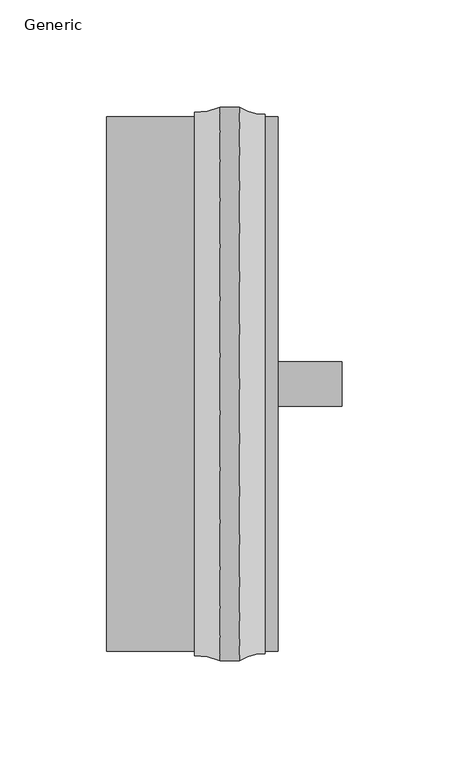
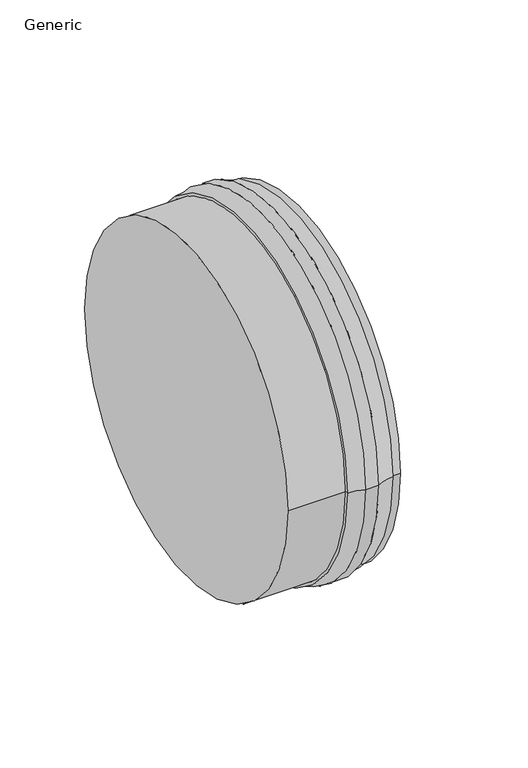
"""IFC4 building model written with IfcOpenShell, lengths in millimetres: pipe fitting geometry, CADS_Jeremias_TeeCapWithDrain_Socket : Generic."""

from ifc_helpers import new_model, si_unit, point, frame, origin, origin_2d, place, context, project, spatial, polyline, circle_curve, ellipse_curve, trimmed, segment, composite_curve, outline, extrude, source, transform, mapped, element, save
from ifc_brep_helpers import plane_surface, cylinder_surface, revolved_surface, advanced_brep


def generic_b223704b(model_context):
    return source(origin(), model_context, "Body", "SolidModel", [
        advanced_brep(
        [(41.0, 125.0, 0.0), (41.0, 126.9765092, 0.0), (41.0, -126.9765092, 0.0), (41.0, -125.0, 0.0), (74.0, 125.0, 0.0), (74.0, -125.0, 0.0), (74.0, 125.9881891, 0.0), (74.0, -125.9881891, 0.0), (62.0, 129.4883201, 0.0), (62.0, -129.4883201, 0.0), (53.0, 129.4883201, 0.0), (53.0, -129.4883201, 0.0)],
        [
            (0, 1),
            (1, 2, circle_curve(frame((41.0, 0.0, 0.0), z_axis=(-1.0, 0.0, 0.0), x_axis=(0.0, -1.0, 0.0)), 126.9765092)),
            (2, 3),
            (3, 0, circle_curve(frame((41.0, 0.0, 0.0), z_axis=(1.0, 0.0, 0.0), x_axis=(0.0, -1.0, 0.0)), 125.0)),
            (2, 1, circle_curve(frame((41.0, 0.0, 0.0), z_axis=(-1.0, 0.0, 0.0), x_axis=(0.0, -1.0, 0.0)), 126.9765092)),
            (0, 3, circle_curve(frame((41.0, 0.0, 0.0), z_axis=(1.0, 0.0, 0.0), x_axis=(0.0, -1.0, 0.0)), 125.0)),
            (4, 0),
            (3, 5),
            (5, 4, circle_curve(frame((74.0, 0.0, 0.0), z_axis=(1.0, 0.0, 0.0), x_axis=(0.0, -1.0, 0.0)), 125.0)),
            (4, 5, circle_curve(frame((74.0, 0.0, 0.0), z_axis=(1.0, 0.0, 0.0), x_axis=(0.0, -1.0, 0.0)), 125.0)),
            (6, 4),
            (5, 7),
            (7, 6, circle_curve(frame((74.0, 0.0, 0.0), z_axis=(1.0, 0.0, 0.0), x_axis=(0.0, -1.0, 0.0)), 125.9881891)),
            (6, 7, circle_curve(frame((74.0, 0.0, 0.0), z_axis=(1.0, 0.0, 0.0), x_axis=(0.0, -1.0, 0.0)), 125.9881891)),
            (8, 6, circle_curve(frame((74.0, 148.3089134, 0.0), z_axis=(0.0, 0.0, 1.0), x_axis=(1.0, 0.0, 0.0)), 22.3207242)),
            (7, 9, circle_curve(frame((74.0, -148.3089134, 0.0), z_axis=(0.0, 0.0, 1.0), x_axis=(1.0, 0.0, 0.0)), 22.3207242)),
            (9, 8, circle_curve(frame((62.0, 0.0, 0.0), z_axis=(1.0, 0.0, 0.0), x_axis=(0.0, -1.0, 0.0)), 129.4883201)),
            (8, 9, circle_curve(frame((62.0, 0.0, 0.0), z_axis=(1.0, 0.0, 0.0), x_axis=(0.0, -1.0, 0.0)), 129.4883201)),
            (10, 8),
            (9, 11),
            (11, 10, circle_curve(frame((53.0, 0.0, 0.0), z_axis=(1.0, 0.0, 0.0), x_axis=(0.0, -1.0, 0.0)), 129.4883201)),
            (10, 11, circle_curve(frame((53.0, 0.0, 0.0), z_axis=(1.0, 0.0, 0.0), x_axis=(0.0, -1.0, 0.0)), 129.4883201)),
            (1, 10, circle_curve(frame((41.0, 156.8969932, 0.0), z_axis=(0.0, 0.0, 1.0), x_axis=(1.0, 0.0, 0.0)), 29.920484)),
            (11, 2, circle_curve(frame((41.0, -156.8969932, 0.0), z_axis=(0.0, 0.0, 1.0), x_axis=(1.0, 0.0, 0.0)), 29.920484)),
        ],
        [
            plane_surface(frame((41.0, 0.0, 0.0), z_axis=(-1.0, 0.0, 0.0), x_axis=(0.0, -1.0, 0.0))),
            revolved_surface(polyline([(41.0, -125.0, 0.0), (74.0, -125.0, 0.0)]), (1997.5, 0.0, 0.0), (-1.0, 0.0, 0.0)),
            plane_surface(frame((74.0, 0.0, 0.0), z_axis=(1.0, 0.0, 0.0), x_axis=(0.0, -1.0, 0.0))),
            revolved_surface(trimmed(ellipse_curve(frame((74.0, -148.3089134, 0.0), z_axis=(0.0, 0.0, 1.0), x_axis=(1.0, 0.0, 0.0)), 22.3207242, 22.3207242), [point((74.0, -125.9881891, 0.0))], [point((62.0, -129.4883201, 0.0))], True, "CARTESIAN"), (1997.5, 0.0, 0.0), (-1.0, 0.0, 0.0)),
            cylinder_surface(frame((1997.5, 0.0, 0.0), z_axis=(-1.0, 0.0, 0.0), x_axis=(0.0, -1.0, 0.0)), 129.4883201),
            revolved_surface(trimmed(ellipse_curve(frame((41.0, -156.8969932, 0.0), z_axis=(0.0, 0.0, 1.0), x_axis=(1.0, 0.0, 0.0)), 29.920484, 29.920484), [point((53.0, -129.4883201, 0.0))], [point((41.0, -126.9765092, 0.0))], True, "CARTESIAN"), (1997.5, 0.0, 0.0), (-1.0, 0.0, 0.0)),
        ],
        [
            (0, [[1, 2, 3, 4]]),
            (0, [[-3, 5, -1, 6]]),
            (1, [[7, -4, 8, 9]]),
            (1, [[-8, -6, -7, 10]]),
            (2, [[11, -9, 12, 13]]),
            (2, [[-12, -10, -11, 14]]),
            (3, [[15, -13, 16, 17]]),
            (3, [[-16, -14, -15, 18]]),
            (4, [[19, -17, 20, 21]]),
            (4, [[-20, -18, -19, 22]]),
            (5, [[23, -21, 24, -2]]),
            (5, [[-24, -22, -23, -5]]),
        ],
    ),
        advanced_brep(
        [(110.0, -10.5, 0.0), (110.0, 10.5, 0.0), (110.0, 0.0, 0.0), (80.0, -10.5, 0.0), (80.0, 10.5, 0.0), (80.0, 0.0, 0.0)],
        [
            (0, 1, circle_curve(frame((110.0, 0.0, 0.0), z_axis=(1.0, 0.0, 0.0), x_axis=(0.0, 1.0, 0.0)), 10.5)),
            (1, 2),
            (2, 0),
            (1, 0, circle_curve(frame((110.0, 0.0, 0.0), z_axis=(1.0, 0.0, 0.0), x_axis=(0.0, 1.0, 0.0)), 10.5)),
            (3, 4, circle_curve(frame((80.0, 0.0, 0.0), z_axis=(1.0, 0.0, 0.0), x_axis=(0.0, 1.0, 0.0)), 10.5)),
            (4, 1),
            (0, 3),
            (4, 3, circle_curve(frame((80.0, 0.0, 0.0), z_axis=(1.0, 0.0, 0.0), x_axis=(0.0, 1.0, 0.0)), 10.5)),
            (5, 4),
            (3, 5),
        ],
        [
            plane_surface(frame((110.0, 0.0, 0.0), z_axis=(1.0, 0.0, 0.0), x_axis=(0.0, 1.0, 0.0))),
            cylinder_surface(frame((2000.0, 0.0, 0.0), z_axis=(-1.0, 0.0, 0.0), x_axis=(0.0, 1.0, 0.0)), 10.5),
            plane_surface(frame((80.0, 0.0, 0.0), z_axis=(-1.0, 0.0, 0.0), x_axis=(0.0, 1.0, 0.0))),
        ],
        [
            (0, [[1, 2, 3]]),
            (0, [[4, -3, -2]]),
            (1, [[5, 6, -1, 7]]),
            (1, [[8, -7, -4, -6]]),
            (2, [[9, -5, 10]]),
            (2, [[-10, -8, -9]]),
        ],
    ),
        extrude(outline(composite_curve([segment(trimmed(circle_curve(origin_2d(), 125.0), [point((-125.0, 0.0))], [point((125.0, 0.0))], False, "CARTESIAN"), True, "CONTINUOUS"), segment(trimmed(circle_curve(origin_2d(), 125.0), [point((125.0, 0.0))], [point((-125.0, 0.0))], False, "CARTESIAN"), True, "CONTINUOUS")], self_intersect=False)), frame((0.0, 0.0, 0.0), z_axis=(1.0, 0.0, 0.0), x_axis=(0.0, 1.0, 0.0)), (0.0, 0.0, 1.0), 80.0),
    ])


if __name__ == "__main__":
    model = new_model("IFC4")
    model_context = context("Model", 3, world=origin())
    ifc_project = project(units=[si_unit("LENGTHUNIT", "METRE", prefix="MILLI")], contexts=[model_context])
    site = spatial("IfcSite", under=ifc_project)
    building = spatial("IfcBuilding", under=site)
    placement = place(None, origin())
    generic_shape = generic_b223704b(model_context)
    element("IfcPipeFitting", 1, ObjectType="CADS_Jeremias_TeeCapWithDrain_Socket : Generic", at=placement, inside=building, context=model_context, shape_type="MappedRepresentation", body=[
        mapped(generic_shape, transform((0.0, 0.0, 0.0), x_axis=(1.0, 0.0, 0.0), y_axis=(0.0, 1.0, 0.0), z_axis=(0.0, 0.0, 1.0))),
    ])
    save(model, "model.ifc")
